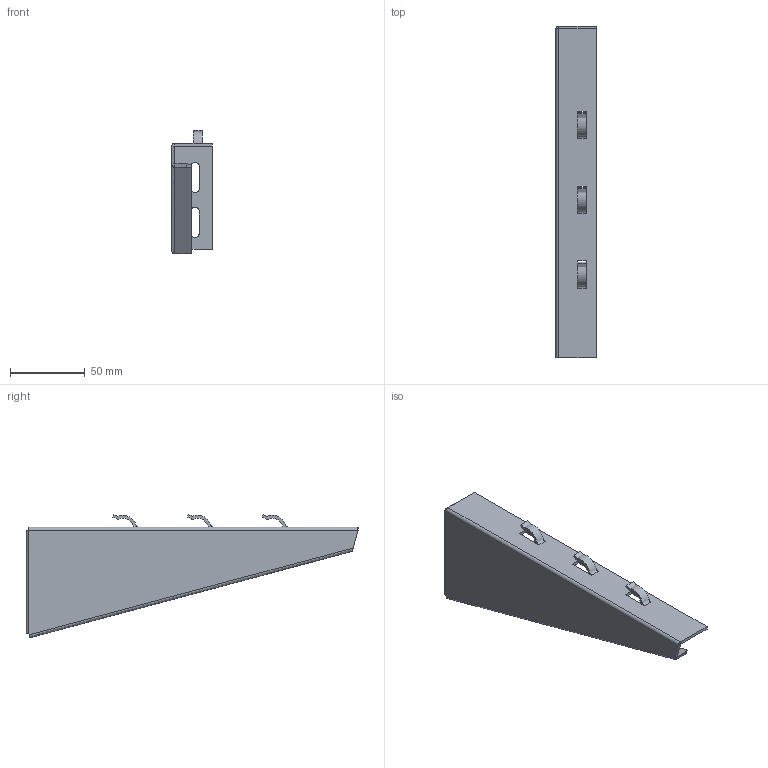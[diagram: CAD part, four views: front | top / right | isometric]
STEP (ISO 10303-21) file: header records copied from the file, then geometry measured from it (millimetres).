
FILE_DESCRIPTION(/* description */ (''),/* implementation_level */ '2;1');
FILE_NAME(/* name */ 'NZM200',/* time_stamp */ '2012-11-29T22:25:37+01:00',/* author */ (''),/* organization */ (''),/* preprocessor_version */ 'ST-DEVELOPER v10',/* originating_system */ '',/* authorisation */ '');
FILE_SCHEMA (('AUTOMOTIVE_DESIGN_CC2'));
Length unit declared in the file: millimetre
Products named in the file (1): 1
Bounding box: 27 x 222 x 82.4 mm (x, y, z)
Surface area: 42535.9 mm2 (no closed solid volume)
Topology: 0 solids, 70 shells, 70 faces, 324 edges, 324 vertices
Faces by surface type: plane 45, bspline 25
Entity records: 4045 total; most frequent: CARTESIAN_POINT 1709, ORIENTED_EDGE 324, EDGE_CURVE 324, VERTEX_POINT 324, B_SPLINE_CURVE_WITH_KNOTS 264, EDGE_LOOP 80, COLOUR_RGB 70, FILL_AREA_STYLE_COLOUR 70
